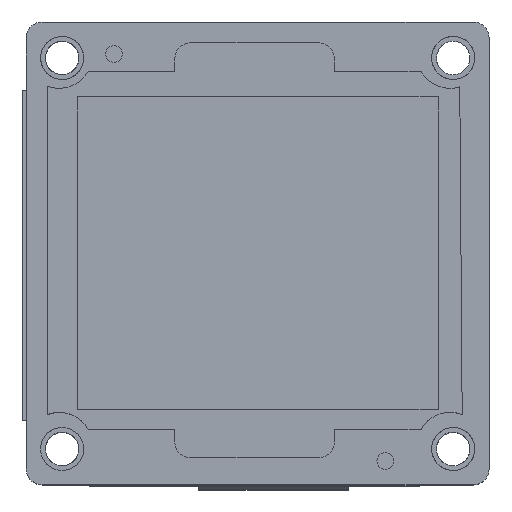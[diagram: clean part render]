
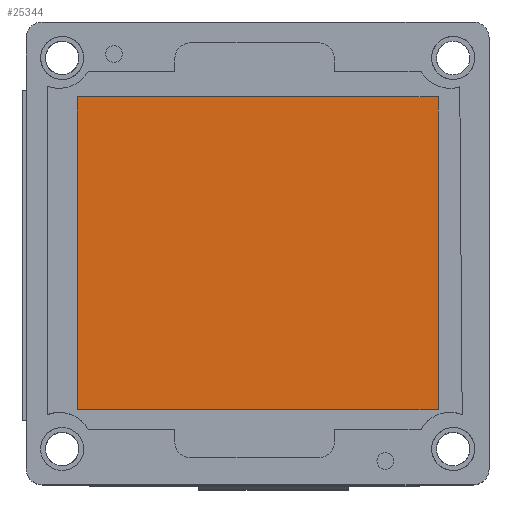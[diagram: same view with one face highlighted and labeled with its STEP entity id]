
A CAD part, top view. The second image highlights one B-rep face of the part: STEP entity #25344.
In plain terms, the highlighted planar face has unit normal (0, 0, 1).
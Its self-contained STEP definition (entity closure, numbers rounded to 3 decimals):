
#1096 = EDGE_CURVE ( 'NONE', #12266, #27447, #20971, .T. ) ;
#3382 = CARTESIAN_POINT ( 'NONE',  ( 18.996, -5.222, -4.506 ) ) ;
#4053 = PLANE ( 'NONE',  #33369 ) ;
#6310 = CARTESIAN_POINT ( 'NONE',  ( -3.604, -5.222, -4.506 ) ) ;
#6769 = ORIENTED_EDGE ( 'NONE', *, *, #1096, .T. ) ;
#6863 = DIRECTION ( 'NONE',  ( 0., 0., -1. ) ) ;
#6917 = VECTOR ( 'NONE', #17350, 1000. ) ;
#6944 = FACE_OUTER_BOUND ( 'NONE', #11532, .T. ) ;
#7574 = ORIENTED_EDGE ( 'NONE', *, *, #34800, .T. ) ;
#9271 = CARTESIAN_POINT ( 'NONE',  ( 18.996, -5.222, -4.506 ) ) ;
#11532 = EDGE_LOOP ( 'NONE', ( #7574, #6769, #28279, #21399 ) ) ;
#11809 = CARTESIAN_POINT ( 'NONE',  ( 18.996, 14.378, -4.506 ) ) ;
#12266 = VERTEX_POINT ( 'NONE', #11809 ) ;
#15214 = DIRECTION ( 'NONE',  ( -1., 0., 0. ) ) ;
#16804 = VECTOR ( 'NONE', #20209, 1000. ) ;
#17350 = DIRECTION ( 'NONE',  ( 0., -1., 0. ) ) ;
#18809 = DIRECTION ( 'NONE',  ( 0., 1., 0. ) ) ;
#20209 = DIRECTION ( 'NONE',  ( 1., 0., 0. ) ) ;
#20971 = LINE ( 'NONE', #25616, #31584 ) ;
#21113 = LINE ( 'NONE', #32638, #32338 ) ;
#21399 = ORIENTED_EDGE ( 'NONE', *, *, #22294, .T. ) ;
#21666 = VERTEX_POINT ( 'NONE', #3382 ) ;
#21987 = LINE ( 'NONE', #28350, #6917 ) ;
#22294 = EDGE_CURVE ( 'NONE', #33811, #21666, #28275, .T. ) ;
#22387 = CARTESIAN_POINT ( 'NONE',  ( 7.696, 4.578, -4.506 ) ) ;
#25344 = ADVANCED_FACE ( 'NONE', ( #6944 ), #4053, .F. ) ;
#25565 = EDGE_CURVE ( 'NONE', #27447, #33811, #21987, .T. ) ;
#25616 = CARTESIAN_POINT ( 'NONE',  ( 18.996, 14.378, -4.506 ) ) ;
#25894 = CARTESIAN_POINT ( 'NONE',  ( -3.604, 14.378, -4.506 ) ) ;
#27023 = DIRECTION ( 'NONE',  ( 0., -1., 0. ) ) ;
#27447 = VERTEX_POINT ( 'NONE', #25894 ) ;
#28275 = LINE ( 'NONE', #9271, #16804 ) ;
#28279 = ORIENTED_EDGE ( 'NONE', *, *, #25565, .T. ) ;
#28350 = CARTESIAN_POINT ( 'NONE',  ( -3.604, 14.378, -4.506 ) ) ;
#31584 = VECTOR ( 'NONE', #15214, 1000. ) ;
#32338 = VECTOR ( 'NONE', #18809, 1000. ) ;
#32638 = CARTESIAN_POINT ( 'NONE',  ( 18.996, 14.378, -4.506 ) ) ;
#33369 = AXIS2_PLACEMENT_3D ( 'NONE', #22387, #6863, #27023 ) ;
#33811 = VERTEX_POINT ( 'NONE', #6310 ) ;
#34800 = EDGE_CURVE ( 'NONE', #21666, #12266, #21113, .T. ) ;
